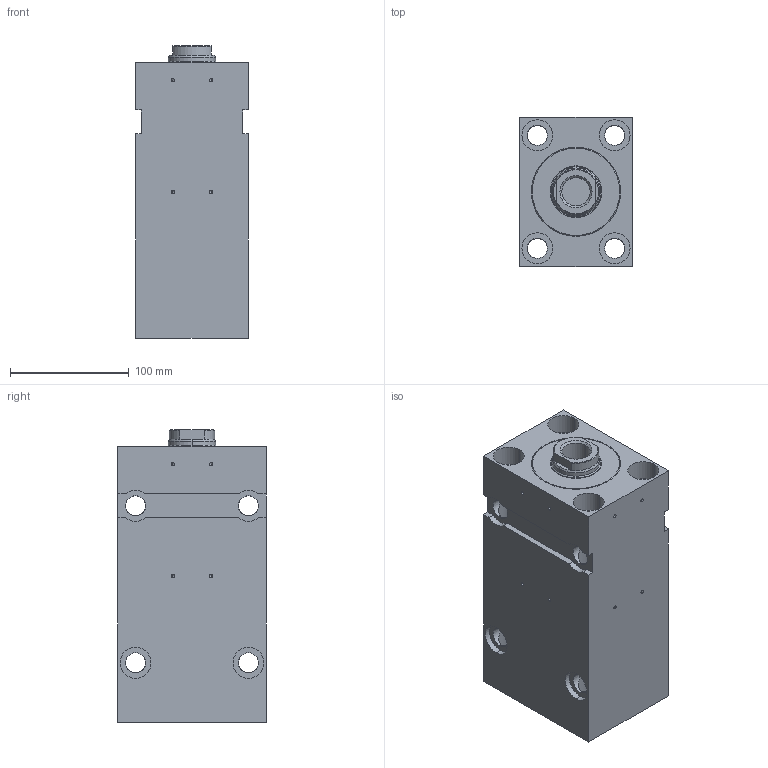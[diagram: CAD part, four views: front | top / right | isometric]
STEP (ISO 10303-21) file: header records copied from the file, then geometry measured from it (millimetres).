
FILE_DESCRIPTION (( 'STEP AP203' ), '1' );
FILE_NAME ('BZ_320.63_40.78.201.120 PP.KBC50__DH_0_.STEP', '2022-05-10T10:24:07', ( '' ), ( '' ), 'SwSTEP 2.0', 'SolidWorks 2020', '' );
FILE_SCHEMA (( 'CONFIG_CONTROL_DESIGN' ));
Length unit declared in the file: millimetre
Products named in the file (7): _Verschraubung komplett mit Dichtung f. BZ_RZ_FZ.63_40.201, Art.-Nr._ 042987(201)^BZ_320.63_40.78.201.120 PP.KBC50__DH_0_(2)_BZ_320.63_40.78.201.120 PP.KBC50__DH_0_; _Gehaeuse f. BZ320.63_40.Fehler in IDBF.201.120Fehler in IDNT00(1350frei278000))10^BZ_320.63_40.78.201.120 PP.KBC50__DH_0_(2)_BZ_320.63_40.78.201.120 PP.KBC50__DH_0_; _Verschraubung hinten komplett mit Dichtung f. BZ500.63_40 LLL^BZ_320.63_40.78.201.120 PP.KBC50__DH_0_(2)_BZ_320.63_40.78.201.120 PP.KBC50__DH_0_; BZ_320.63_40.78.201.120 PP.KBC50__DH_0_(2)^BZ_320.63_40.78.201.120 PP.KBC50__DH_0_; _Kolbenstange komplett f. BZ_RZ_FZ.63_40.xx.201.120(0_11 1 27 3 0 0 14 40 0 0 0)0^BZ_320.63_40.78.201.120 PP.KBC50__DH_0_(2)_BZ_320.63_40.78.201.120 PP.KBC50__DH_0_; BZ_320.63_40.78.201.120 PP.KBC50__DH_0_; _Dichtungssatz f. BZ_RZ_FZ.63_40.xx.201.120 Artikelnr._ 013832(0)^BZ_320.63_40.78.201.120 PP.KBC50__DH_0_(2)_BZ_320.63_40.78.201.120 PP.KBC50__DH_0_
Assembly tree (6 placements, depth 3):
  BZ_320.63_40.78.201.120 PP.KBC50__DH_0_
    BZ_320.63_40.78.201.120 PP.KBC50__DH_0_(2)^BZ_320.63_40.78.201.120 PP.KBC50__DH_0_
      _Gehaeuse f. BZ320.63_40.Fehler in IDBF.201.120Fehler in IDNT00(1350frei278000))10^BZ_320.63_40.78.201.120 PP.KBC50__DH_0_(2)_BZ_320.63_40.78.201.120 PP.KBC50__DH_0_
      _Verschraubung hinten komplett mit Dichtung f. BZ500.63_40 LLL^BZ_320.63_40.78.201.120 PP.KBC50__DH_0_(2)_BZ_320.63_40.78.201.120 PP.KBC50__DH_0_
      _Verschraubung komplett mit Dichtung f. BZ_RZ_FZ.63_40.201, Art.-Nr._ 042987(201)^BZ_320.63_40.78.201.120 PP.KBC50__DH_0_(2)_BZ_320.63_40.78.201.120 PP.KBC50__DH_0_
      _Dichtungssatz f. BZ_RZ_FZ.63_40.xx.201.120 Artikelnr._ 013832(0)^BZ_320.63_40.78.201.120 PP.KBC50__DH_0_(2)_BZ_320.63_40.78.201.120 PP.KBC50__DH_0_
      _Kolbenstange komplett f. BZ_RZ_FZ.63_40.xx.201.120(0_11 1 27 3 0 0 14 40 0 0 0)0^BZ_320.63_40.78.201.120 PP.KBC50__DH_0_(2)_BZ_320.63_40.78.201.120 PP.KBC50__DH_0_
Bounding box: 95 x 125 x 246 mm (x, y, z)
Volume: 2173585.8 mm3; surface area: 311699.3 mm2
Topology: 5 solids, 5 shells, 245 faces, 597 edges, 356 vertices
Faces by surface type: cylinder 150, plane 57, cone 38
Entity records: 8052 total; most frequent: CARTESIAN_POINT 1624, DIRECTION 1259, ORIENTED_EDGE 1146, EDGE_CURVE 573, AXIS2_PLACEMENT_3D 503, VERTEX_POINT 356, EDGE_LOOP 305, VECTOR 253
